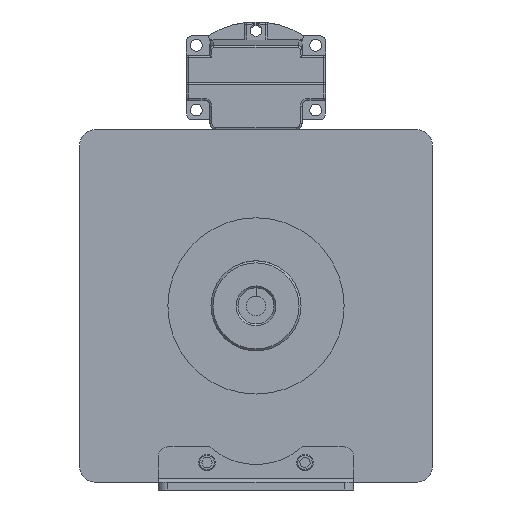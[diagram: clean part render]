
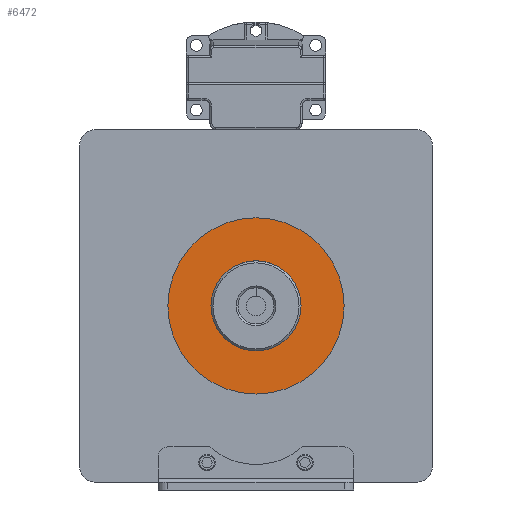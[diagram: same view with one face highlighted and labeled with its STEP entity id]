
A CAD part, front view. The second image highlights one B-rep face of the part: STEP entity #6472.
In plain terms, the highlighted planar face has unit normal (0, -1, 0).
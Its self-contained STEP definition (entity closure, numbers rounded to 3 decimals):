
#281 = DIRECTION ( 'NONE',  ( 0., 0., -1. ) ) ;
#295 = VERTEX_POINT ( 'NONE', #12591 ) ;
#397 = DIRECTION ( 'NONE',  ( 0., 0., -1. ) ) ;
#477 = DIRECTION ( 'NONE',  ( 0., 0., -1. ) ) ;
#496 = CIRCLE ( 'NONE', #4580, 23. ) ;
#842 = AXIS2_PLACEMENT_3D ( 'NONE', #11606, #5755, #12609 ) ;
#1190 = AXIS2_PLACEMENT_3D ( 'NONE', #12437, #6574, #397 ) ;
#1313 = EDGE_LOOP ( 'NONE', ( #2055, #8402 ) ) ;
#1851 = CIRCLE ( 'NONE', #5260, 45. ) ;
#1885 = CARTESIAN_POINT ( 'NONE',  ( 0., -124.5, -90. ) ) ;
#2055 = ORIENTED_EDGE ( 'NONE', *, *, #9725, .T. ) ;
#2946 = DIRECTION ( 'NONE',  ( 0., 0., -1. ) ) ;
#4402 = AXIS2_PLACEMENT_3D ( 'NONE', #11509, #6653, #477 ) ;
#4580 = AXIS2_PLACEMENT_3D ( 'NONE', #12312, #6474, #281 ) ;
#4607 = PLANE ( 'NONE',  #4402 ) ;
#5260 = AXIS2_PLACEMENT_3D ( 'NONE', #1885, #8969, #2946 ) ;
#5454 = FACE_BOUND ( 'NONE', #9837, .T. ) ;
#5602 = CIRCLE ( 'NONE', #842, 23. ) ;
#5755 = DIRECTION ( 'NONE',  ( 0., -1., 0. ) ) ;
#6472 = ADVANCED_FACE ( 'NONE', ( #8408, #5454 ), #4607, .T. ) ;
#6474 = DIRECTION ( 'NONE',  ( 0., -1., 0. ) ) ;
#6574 = DIRECTION ( 'NONE',  ( 0., -1., 0. ) ) ;
#6653 = DIRECTION ( 'NONE',  ( 0., -1., 0. ) ) ;
#7124 = EDGE_CURVE ( 'NONE', #9874, #12450, #5602, .T. ) ;
#7758 = CIRCLE ( 'NONE', #1190, 45. ) ;
#7771 = CARTESIAN_POINT ( 'NONE',  ( 0., -124.5, -113. ) ) ;
#8402 = ORIENTED_EDGE ( 'NONE', *, *, #10438, .T. ) ;
#8408 = FACE_OUTER_BOUND ( 'NONE', #1313, .T. ) ;
#8969 = DIRECTION ( 'NONE',  ( 0., -1., 0. ) ) ;
#9725 = EDGE_CURVE ( 'NONE', #12996, #295, #7758, .T. ) ;
#9837 = EDGE_LOOP ( 'NONE', ( #11890, #10252 ) ) ;
#9874 = VERTEX_POINT ( 'NONE', #7771 ) ;
#10252 = ORIENTED_EDGE ( 'NONE', *, *, #11300, .F. ) ;
#10438 = EDGE_CURVE ( 'NONE', #295, #12996, #1851, .T. ) ;
#11300 = EDGE_CURVE ( 'NONE', #12450, #9874, #496, .T. ) ;
#11509 = CARTESIAN_POINT ( 'NONE',  ( 0., -124.5, -135. ) ) ;
#11606 = CARTESIAN_POINT ( 'NONE',  ( 0., -124.5, -90. ) ) ;
#11628 = CARTESIAN_POINT ( 'NONE',  ( 0., -124.5, -67. ) ) ;
#11890 = ORIENTED_EDGE ( 'NONE', *, *, #7124, .F. ) ;
#12312 = CARTESIAN_POINT ( 'NONE',  ( 0., -124.5, -90. ) ) ;
#12437 = CARTESIAN_POINT ( 'NONE',  ( 0., -124.5, -90. ) ) ;
#12450 = VERTEX_POINT ( 'NONE', #11628 ) ;
#12479 = CARTESIAN_POINT ( 'NONE',  ( 0., -124.5, -135. ) ) ;
#12591 = CARTESIAN_POINT ( 'NONE',  ( 0., -124.5, -45. ) ) ;
#12609 = DIRECTION ( 'NONE',  ( 0., 0., -1. ) ) ;
#12996 = VERTEX_POINT ( 'NONE', #12479 ) ;
